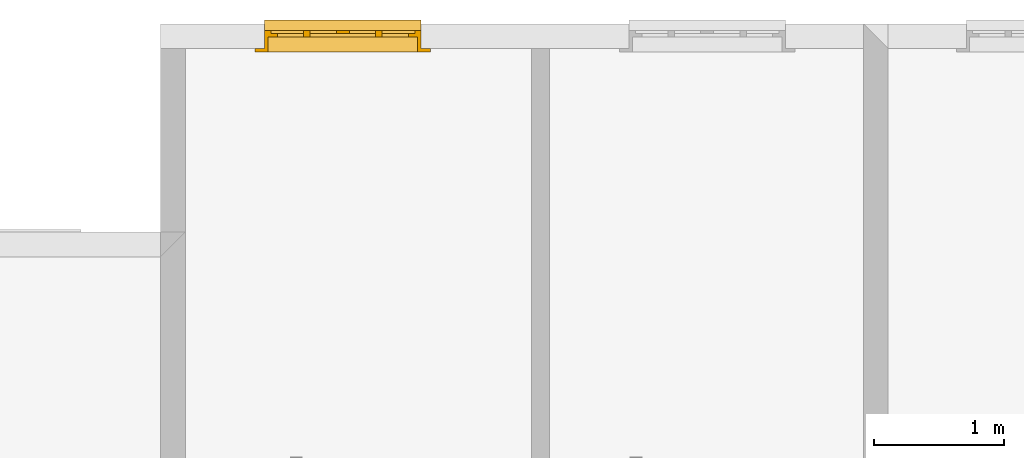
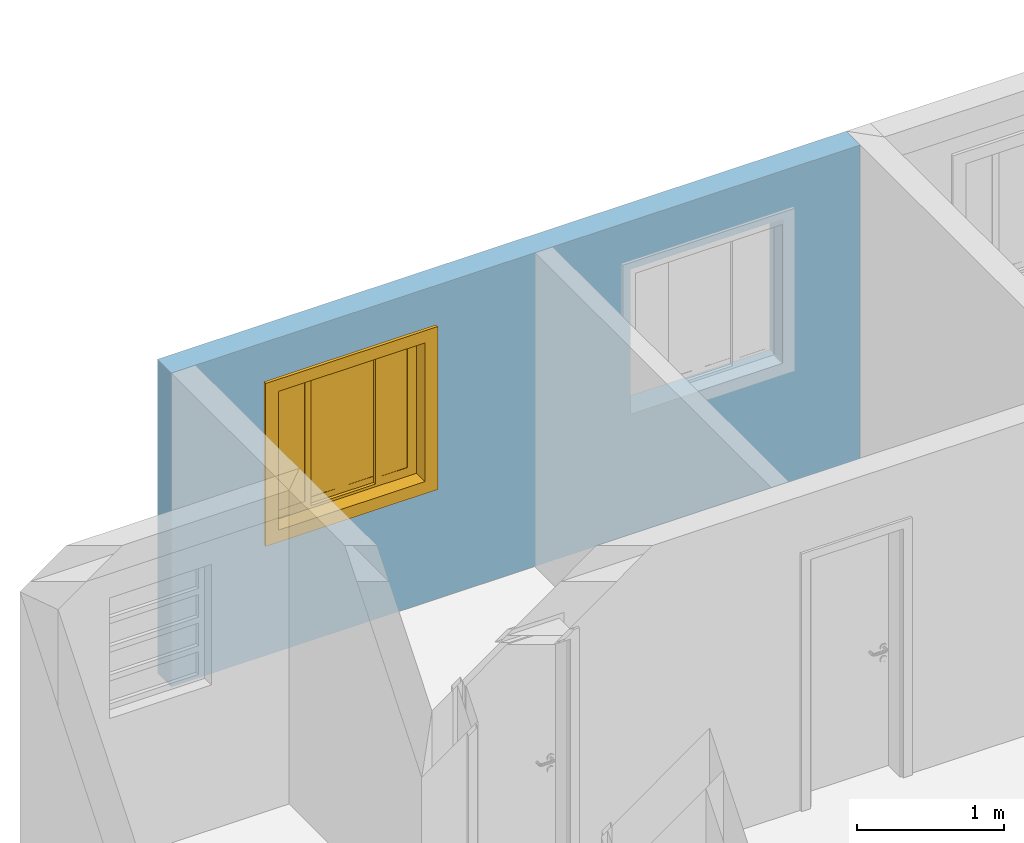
# One storey, part 38 of 47: 1 window, 2 openings, plus 1 element that does not belong to this part.
"""IFC2X3 building model written with IfcOpenShell, lengths in millimetres."""

from ifc_helpers import new_model, entity, si_unit, converted_unit, derived_unit, money_unit, direction, frame, origin_with_axes, origin_2d_with_axis, place, context, subcontext, project, spatial, polyline, rectangle, outline, extrude, open_shell, faceted_brep, surface_model, source, transform, mapped, material, layer, layer_set, layer_usage, type_object, element, fill, save


model = new_model("IFC2X3")

# Units and contexts
model_context = context("Model", 3, precision=0.01, world=origin_with_axes(), true_north=direction((0.0, 1.0)))
body_context = subcontext(model_context, "Body", "Model", "MODEL_VIEW")
ifc_project = project(units=[si_unit("LENGTHUNIT", "METRE", prefix="MILLI"), si_unit("AREAUNIT", "SQUARE_METRE"), si_unit("VOLUMEUNIT", "CUBIC_METRE"), converted_unit("PLANEANGLEUNIT", "DEGREE", entity("IfcPlaneAngleMeasure", 0.0174532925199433), si_unit("PLANEANGLEUNIT", "RADIAN"), dimensions=[0, 0, 0, 0, 0, 0, 0]), money_unit("USD"), converted_unit("TIMEUNIT", "Year", entity("IfcTimeMeasure", 31557600.0), si_unit("TIMEUNIT", "SECOND"), dimensions=[0, 0, 1, 0, 0, 0, 0]), si_unit("MASSUNIT", "GRAM", prefix="KILO"), si_unit("THERMODYNAMICTEMPERATUREUNIT", "DEGREE_CELSIUS"), si_unit("LUMINOUSINTENSITYUNIT", "LUMEN"), si_unit("ENERGYUNIT", "JOULE", prefix="MEGA"), derived_unit("THERMALCONDUCTANCEUNIT", [(si_unit("POWERUNIT", "WATT"), 1), (si_unit("LENGTHUNIT", "METRE"), -1), (si_unit("THERMODYNAMICTEMPERATUREUNIT", "KELVIN"), -1)]), derived_unit("SPECIFICHEATCAPACITYUNIT", [(si_unit("ENERGYUNIT", "JOULE"), 1), (si_unit("MASSUNIT", "GRAM", prefix="KILO"), -1), (si_unit("THERMODYNAMICTEMPERATUREUNIT", "KELVIN"), -1)]), derived_unit("MASSDENSITYUNIT", [(si_unit("MASSUNIT", "GRAM", prefix="KILO"), 1), (si_unit("VOLUMEUNIT", "CUBIC_METRE"), -1)])], contexts=[model_context])

# Site, building, storey
site_placement = place(None, origin_with_axes())
site = spatial("IfcSite", under=ifc_project, at=site_placement, Name="Local", CompositionType="ELEMENT")
building_placement = place(site_placement, origin_with_axes())
building = spatial("IfcBuilding", under=site, at=building_placement, Name="Construção", CompositionType="ELEMENT")
storey_placement = place(building_placement, origin_with_axes())
storey = spatial("IfcBuildingStorey", under=building, at=storey_placement, Name="Pavimento Tipo", CompositionType="ELEMENT", Elevation=0.0)

# Wall, openings, window
ifc_material = material(Name="Concreto - Estrutural")
ifc_layer = layer(ifc_material, 190.0, ventilated="UNKNOWN")
ifc_layer_set = layer_set([ifc_layer], Name="Concreto - Estrutural 190")
ifc_layer_usage = layer_usage(ifc_layer_set, "AXIS2", "POSITIVE", -190.0)
wall_type = type_object("IfcWallType", Name="Concreto - Estrutural 190", PredefinedType="NOTDEFINED")
wall_placement = place(storey_placement, frame((-4547.433002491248, 19186.98141771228, 0.0), z_axis=(0.0, 0.0, 1.0), x_axis=(1.0, 0.0, 0.0)))
wall = element("IfcWallStandardCase", 1, at=wall_placement, inside=storey, type_object=wall_type, material=ifc_layer_usage, Name="Apartamento 2 - Parede-004", context=body_context, shape_type="SweptSolid", body=[
    extrude(outline(polyline([(0.0, -190.0000000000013), (5399.999999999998, -190.0000000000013), (5399.999999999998, 0.0), (0.0, 0.0), (0.0, -190.0000000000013)])), origin_with_axes(), (0.0, 0.0, 1.0), 2600.0),
])
opening_1_placement = place(wall_placement, frame((4199.999999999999, 0.0, 1000.0), z_axis=(0.0, 0.0, 1.0), x_axis=(1.0, 0.0, 0.0)))
element("IfcOpeningElement", 2, at=opening_1_placement, cuts=wall, Name="Apartamento 2 - J06", context=body_context, shape_type="SweptSolid", body=[
    extrude(rectangle(XDim=1200.0, YDim=1200.0, at=origin_2d_with_axis()), frame((0.0, -50.00000000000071, 600.0000000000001), z_axis=(0.0, -1.0, 0.0), x_axis=(-1.0, 0.0, 0.0)), (0.0, 0.0, 1.0), 330.0),
    extrude(rectangle(XDim=1200.0, YDim=1200.0, at=origin_2d_with_axis()), frame((0.0, -50.00000000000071, 600.0000000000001), z_axis=(0.0, 1.0, 0.0), x_axis=(-1.0, 0.0, 0.0)), (0.0, 0.0, 1.0), 240.0),
    extrude(rectangle(XDim=1350.0, YDim=1350.0, at=origin_2d_with_axis()), frame((0.0, -190.0000000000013, 600.0000000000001), z_axis=(0.0, -1.0, 0.0), x_axis=(-1.0, 0.0, 0.0)), (0.0, 0.0, 1.0), 240.0),
])
opening_2_placement = place(wall_placement, frame((1400.0, 0.0, 1000.0), z_axis=(0.0, 0.0, 1.0), x_axis=(1.0, 0.0, 0.0)))
opening_2 = element("IfcOpeningElement", 3, at=opening_2_placement, cuts=wall, Name="Apartamento 2 - J05", context=body_context, shape_type="SweptSolid", body=[
    extrude(rectangle(XDim=1200.0, YDim=1200.0, at=origin_2d_with_axis()), frame((0.0, -50.00000000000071, 600.0000000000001), z_axis=(0.0, 1.0, 0.0), x_axis=(1.0, 0.0, 0.0)), (0.0, 0.0, -1.0), 330.0),
    extrude(rectangle(XDim=1200.0, YDim=1200.0, at=origin_2d_with_axis()), frame((0.0, -50.00000000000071, 600.0000000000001), z_axis=(0.0, -1.0, 0.0), x_axis=(1.0, 0.0, 0.0)), (0.0, 0.0, -1.0), 240.0),
    extrude(rectangle(XDim=1350.0, YDim=1350.0, at=origin_2d_with_axis()), frame((0.0, -190.0000000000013, 600.0000000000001), z_axis=(0.0, 1.0, 0.0), x_axis=(1.0, 0.0, 0.0)), (0.0, 0.0, -1.0), 240.0),
])
window_style = type_object("IfcWindowStyle", Name="Janela de Correr 4-Folhas 27", ConstructionType="NOTDEFINED", OperationType="USERDEFINED", ParameterTakesPrecedence=False, Sizeable=False)
shared_shape = source(origin_with_axes(), body_context, "Body", "SurfaceModel", [
    faceted_brep([(-600.0, 0.0, 5.0), (-600.0, 0.0, 30.0), (-600.0, 50.0, 27.37961103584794), (-600.0, 50.0, 5.000000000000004), (600.0, 0.0, 5.0), (600.0, 0.0, 30.0), (600.0, 50.0, 27.37961103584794), (600.0, 80.0, 25.8073776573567), (-600.0, 80.0, 25.8073776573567), (-600.0, 80.0, 5.000000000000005), (600.0, 80.0, 5.000000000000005), (600.0, 50.0, 5.000000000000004)], [[[0, 1, 2, 3]], [[4, 5, 1, 0]], [[1, 5, 6, 7, 8, 2]], [[3, 2, 8, 9]], [[0, 3, 9, 10, 11, 4]], [[11, 6, 5, 4]], [[10, 7, 6, 11]], [[9, 8, 7, 10]]]),
    faceted_brep([(-600.0, 0.0, 0.0), (-600.0, 0.0, 5.0), (-600.0, 50.0, 5.0), (-600.0, 50.0, 0.0), (600.0, 0.0, 0.0), (600.0, 0.0, 5.0), (600.0, 50.0, 5.0), (600.0, 50.0, 0.0)], [[[0, 1, 2, 3]], [[4, 5, 1, 0]], [[1, 5, 6, 2]], [[3, 2, 6, 7]], [[0, 3, 7, 4]], [[7, 6, 5, 4]]]),
    faceted_brep([(-600.0, -50.0, 0.0), (600.0, -50.0, 0.0), (600.0, -140.0, 0.0), (-600.0, -140.0, 0.0), (-600.0, -50.00000000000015, 1200.0), (600.0, -50.00000000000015, 1200.0), (-575.0, -50.0, 24.99999999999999), (575.0, -50.0, 24.99999999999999), (575.0, -50.00000000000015, 1175.0), (-575.0, -50.00000000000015, 1175.0), (600.0, -140.0000000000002, 1200.0), (-600.0, -140.0000000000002, 1200.0), (-575.0, -140.0, 24.99999999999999), (-575.0, -140.0000000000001, 1175.0), (575.0, -140.0000000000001, 1175.0), (575.0, -140.0, 24.99999999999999)], [[[0, 1, 2, 3]], [[0, 4, 5, 1], [6, 7, 8, 9]], [[1, 5, 10, 2]], [[3, 2, 10, 11], [12, 13, 14, 15]], [[4, 0, 3, 11]], [[5, 4, 11, 10]], [[7, 6, 12, 15]], [[8, 7, 15, 14]], [[9, 8, 14, 13]], [[6, 9, 13, 12]]]),
    faceted_brep([(-674.9999999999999, -165.0, -75.00000000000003), (-674.9999999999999, -140.0, -75.00000000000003), (-575.0, -140.0, 24.99999999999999), (-575.0, -165.0, 24.99999999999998), (-674.9999999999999, -165.0000000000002, 1275.0), (-674.9999999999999, -140.0000000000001, 1275.0), (-575.0, -140.0000000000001, 1175.0), (-575.0, -165.0000000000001, 1175.0)], [[[0, 1, 2, 3]], [[4, 5, 1, 0]], [[1, 5, 6, 2]], [[3, 2, 6, 7]], [[0, 3, 7, 4]], [[7, 6, 5, 4]]]),
    faceted_brep([(674.9999999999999, -165.0000000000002, 1275.0), (674.9999999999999, -140.0000000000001, 1275.0), (575.0, -140.0000000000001, 1175.0), (575.0, -165.0000000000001, 1175.0), (674.9999999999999, -165.0, -75.00000000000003), (674.9999999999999, -140.0, -75.00000000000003), (575.0, -140.0, 24.99999999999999), (575.0, -165.0, 24.99999999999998)], [[[0, 1, 2, 3]], [[4, 5, 1, 0]], [[1, 5, 6, 2]], [[3, 2, 6, 7]], [[0, 3, 7, 4]], [[7, 6, 5, 4]]]),
    faceted_brep([(674.9999999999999, -165.0, -75.00000000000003), (674.9999999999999, -140.0, -75.00000000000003), (575.0, -140.0, 24.99999999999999), (575.0, -165.0, 24.99999999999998), (-674.9999999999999, -165.0, -75.00000000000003), (-674.9999999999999, -140.0, -75.00000000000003), (-575.0, -140.0, 24.99999999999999), (-575.0, -165.0, 24.99999999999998)], [[[0, 1, 2, 3]], [[4, 5, 1, 0]], [[1, 5, 6, 2]], [[3, 2, 6, 7]], [[0, 3, 7, 4]], [[7, 6, 5, 4]]]),
    faceted_brep([(-674.9999999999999, -165.0000000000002, 1275.0), (-674.9999999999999, -140.0000000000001, 1275.0), (-575.0, -140.0000000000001, 1175.0), (-575.0, -165.0000000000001, 1175.0), (674.9999999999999, -165.0000000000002, 1275.0), (674.9999999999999, -140.0000000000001, 1275.0), (575.0, -140.0000000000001, 1175.0), (575.0, -165.0000000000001, 1175.0)], [[[0, 1, 2, 3]], [[4, 5, 1, 0]], [[1, 5, 6, 2]], [[3, 2, 6, 7]], [[0, 3, 7, 4]], [[7, 6, 5, 4]]]),
    faceted_brep([(-552.9999999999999, -50.00000000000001, 47.0), (-552.9999999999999, 0.0, 47.00000000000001), (-552.9999999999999, 0.0, 1153.0), (-552.9999999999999, -50.00000000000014, 1153.0), (-600.0, -50.00000000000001, 47.0), (-600.0, 0.0, 47.00000000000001), (-600.0, 0.0, 1153.0), (-600.0, -50.00000000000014, 1153.0)], [[[0, 1, 2, 3]], [[4, 5, 1, 0]], [[1, 5, 6, 2]], [[3, 2, 6, 7]], [[0, 3, 7, 4]], [[7, 6, 5, 4]]]),
    faceted_brep([(600.0, -50.00000000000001, 47.0), (600.0, 0.0, 47.00000000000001), (600.0, 0.0, 1153.0), (600.0, -50.00000000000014, 1153.0), (552.9999999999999, -50.00000000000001, 47.0), (552.9999999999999, 0.0, 47.00000000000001), (552.9999999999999, 0.0, 1153.0), (552.9999999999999, -50.00000000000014, 1153.0)], [[[0, 1, 2, 3]], [[4, 5, 1, 0]], [[1, 5, 6, 2]], [[3, 2, 6, 7]], [[0, 3, 7, 4]], [[7, 6, 5, 4]]]),
    faceted_brep([(600.0, -50.00000000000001, 47.0), (600.0, 0.0, 47.00000000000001), (552.9999999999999, 0.0, 47.00000000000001), (552.9999999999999, -50.00000000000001, 47.0), (600.0, -50.0, 0.0), (600.0, 0.0, 0.0), (-600.0, 0.0, 0.0), (-600.0, 0.0, 47.00000000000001), (-552.9999999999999, 0.0, 47.00000000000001), (-552.9999999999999, -50.00000000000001, 47.0), (-600.0, -50.00000000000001, 47.0), (-600.0, -50.0, 0.0)], [[[0, 1, 2, 3]], [[4, 5, 1, 0]], [[1, 5, 6, 7, 8, 2]], [[3, 2, 8, 9]], [[0, 3, 9, 10, 11, 4]], [[11, 6, 5, 4]], [[10, 7, 6, 11]], [[9, 8, 7, 10]]]),
    faceted_brep([(600.0, -50.00000000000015, 1200.0), (600.0, 0.0, 1200.0), (-600.0, 0.0, 1200.0), (-600.0, -50.00000000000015, 1200.0), (600.0, -50.00000000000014, 1153.0), (600.0, 0.0, 1153.0), (552.9999999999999, 0.0, 1153.0), (276.5, 0.0, 1153.0), (0.0, 0.0, 1153.0), (-276.4999999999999, 0.0, 1153.0), (-552.9999999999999, 0.0, 1153.0), (-600.0, 0.0, 1153.0), (-600.0, -50.00000000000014, 1153.0), (-552.9999999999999, -50.00000000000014, 1153.0), (-276.4999999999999, -50.00000000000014, 1153.0), (0.0, -50.00000000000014, 1153.0), (276.5, -50.00000000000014, 1153.0), (552.9999999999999, -50.00000000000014, 1153.0)], [[[0, 1, 2, 3]], [[4, 5, 1, 0]], [[1, 5, 6, 7, 8, 9, 10, 11, 2]], [[3, 2, 11, 12]], [[0, 3, 12, 13, 14, 15, 16, 17, 4]], [[17, 6, 5, 4]], [[16, 7, 6, 17]], [[15, 8, 7, 16]], [[14, 9, 8, 15]], [[13, 10, 9, 14]], [[12, 11, 10, 13]]]),
    faceted_brep([(-502.9999999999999, -50.00000000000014, 1103.0), (-502.9999999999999, -25.00000000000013, 1103.0), (-552.9999999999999, -25.00000000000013, 1103.0), (-552.9999999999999, -50.00000000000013, 1103.0), (-502.9999999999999, -50.00000000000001, 97.0), (-502.9999999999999, -25.00000000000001, 97.0), (-552.9999999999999, -25.0, 97.0), (-552.9999999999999, -50.00000000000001, 97.0)], [[[0, 1, 2, 3]], [[4, 5, 1, 0]], [[1, 5, 6, 2]], [[3, 2, 6, 7]], [[0, 3, 7, 4]], [[7, 6, 5, 4]]]),
    faceted_brep([(-301.4999999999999, -50.00000000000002, 97.0), (-301.4999999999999, -25.00000000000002, 97.0), (-251.4999999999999, -25.00000000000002, 97.0), (-251.4999999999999, -50.00000000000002, 97.0), (-301.4999999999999, -50.00000000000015, 1103.0), (-301.4999999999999, -25.00000000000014, 1103.0), (-251.4999999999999, -25.00000000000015, 1103.0), (-251.4999999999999, -50.00000000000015, 1103.0)], [[[0, 1, 2, 3]], [[4, 5, 1, 0]], [[1, 5, 6, 2]], [[3, 2, 6, 7]], [[0, 3, 7, 4]], [[7, 6, 5, 4]]]),
    faceted_brep([(-251.4999999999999, -50.00000000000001, 47.0), (-251.4999999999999, -25.00000000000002, 47.0), (-251.4999999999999, -25.00000000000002, 97.0), (-251.4999999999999, -50.00000000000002, 97.0), (-552.9999999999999, -50.0, 47.0), (-552.9999999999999, -25.0, 47.0), (-552.9999999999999, -25.0, 97.0), (-502.9999999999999, -25.00000000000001, 97.0), (-301.4999999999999, -25.00000000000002, 97.0), (-301.4999999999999, -50.00000000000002, 97.0), (-502.9999999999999, -50.00000000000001, 97.0), (-552.9999999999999, -50.00000000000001, 97.0)], [[[0, 1, 2, 3]], [[4, 5, 1, 0]], [[1, 5, 6, 7, 8, 2]], [[3, 2, 8, 9]], [[0, 3, 9, 10, 11, 4]], [[11, 6, 5, 4]], [[10, 7, 6, 11]], [[9, 8, 7, 10]]]),
    faceted_brep([(-552.9999999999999, -50.00000000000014, 1153.0), (-552.9999999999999, -25.00000000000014, 1153.0), (-552.9999999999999, -25.00000000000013, 1103.0), (-552.9999999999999, -50.00000000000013, 1103.0), (-251.4999999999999, -50.00000000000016, 1153.0), (-251.4999999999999, -25.00000000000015, 1153.0), (-251.4999999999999, -25.00000000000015, 1103.0), (-301.4999999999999, -25.00000000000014, 1103.0), (-502.9999999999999, -25.00000000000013, 1103.0), (-502.9999999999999, -50.00000000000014, 1103.0), (-301.4999999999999, -50.00000000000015, 1103.0), (-251.4999999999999, -50.00000000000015, 1103.0)], [[[0, 1, 2, 3]], [[4, 5, 1, 0]], [[1, 5, 6, 7, 8, 2]], [[3, 2, 8, 9]], [[0, 3, 9, 10, 11, 4]], [[11, 6, 5, 4]], [[10, 7, 6, 11]], [[9, 8, 7, 10]]]),
    surface_model("IfcShellBasedSurfaceModel", [(-502.9999999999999, -47.50000000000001, 97.0), (-301.4999999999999, -47.50000000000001, 97.0), (-301.4999999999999, -47.50000000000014, 1103.0), (-502.9999999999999, -47.50000000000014, 1103.0)], [open_shell([[[0, 1, 2, 3]]])]),
    surface_model("IfcShellBasedSurfaceModel", [(-502.9999999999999, -27.50000000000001, 97.0), (-502.9999999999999, -27.50000000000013, 1103.0), (-301.4999999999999, -27.50000000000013, 1103.0), (-301.4999999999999, -27.50000000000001, 97.0)], [open_shell([[[0, 1, 2, 3]]])]),
    faceted_brep([(-251.4999999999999, -25.00000000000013, 1103.0), (-251.4999999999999, 0.0, 1103.0), (-301.4999999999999, 0.0, 1103.0), (-301.4999999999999, -25.00000000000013, 1103.0), (-251.4999999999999, -25.00000000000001, 97.0), (-251.4999999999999, 0.0, 97.0), (-301.4999999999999, 0.0, 97.0), (-301.4999999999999, -25.0, 97.0)], [[[0, 1, 2, 3]], [[4, 5, 1, 0]], [[1, 5, 6, 2]], [[3, 2, 6, 7]], [[0, 3, 7, 4]], [[7, 6, 5, 4]]]),
    faceted_brep([(-49.99999999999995, -25.00000000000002, 97.0), (-49.99999999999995, 0.0, 97.0), (0.0, 0.0, 97.0), (0.0, -25.00000000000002, 97.0), (-49.99999999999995, -25.00000000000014, 1103.0), (-49.99999999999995, 0.0, 1103.0), (0.0, 0.0, 1103.0), (0.0, -25.00000000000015, 1103.0)], [[[0, 1, 2, 3]], [[4, 5, 1, 0]], [[1, 5, 6, 2]], [[3, 2, 6, 7]], [[0, 3, 7, 4]], [[7, 6, 5, 4]]]),
    faceted_brep([(0.0, -25.00000000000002, 47.0), (0.0, 0.0, 47.0), (0.0, 0.0, 97.0), (0.0, -25.00000000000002, 97.0), (-301.4999999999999, -25.0, 47.0), (-301.4999999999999, 0.0, 47.0), (-301.4999999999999, 0.0, 97.0), (-251.4999999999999, 0.0, 97.0), (-49.99999999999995, 0.0, 97.0), (-49.99999999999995, -25.00000000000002, 97.0), (-251.4999999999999, -25.00000000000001, 97.0), (-301.4999999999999, -25.0, 97.0)], [[[0, 1, 2, 3]], [[4, 5, 1, 0]], [[1, 5, 6, 7, 8, 2]], [[3, 2, 8, 9]], [[0, 3, 9, 10, 11, 4]], [[11, 6, 5, 4]], [[10, 7, 6, 11]], [[9, 8, 7, 10]]]),
    faceted_brep([(-301.4999999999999, -25.00000000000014, 1153.0), (-301.4999999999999, 0.0, 1153.0), (-301.4999999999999, 0.0, 1103.0), (-301.4999999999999, -25.00000000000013, 1103.0), (0.0, -25.00000000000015, 1153.0), (0.0, 0.0, 1153.0), (0.0, 0.0, 1103.0), (-49.99999999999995, 0.0, 1103.0), (-251.4999999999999, 0.0, 1103.0), (-251.4999999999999, -25.00000000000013, 1103.0), (-49.99999999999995, -25.00000000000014, 1103.0), (0.0, -25.00000000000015, 1103.0)], [[[0, 1, 2, 3]], [[4, 5, 1, 0]], [[1, 5, 6, 7, 8, 2]], [[3, 2, 8, 9]], [[0, 3, 9, 10, 11, 4]], [[11, 6, 5, 4]], [[10, 7, 6, 11]], [[9, 8, 7, 10]]]),
    surface_model("IfcShellBasedSurfaceModel", [(-251.4999999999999, -22.50000000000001, 97.0), (-49.99999999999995, -22.50000000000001, 97.0), (-49.99999999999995, -22.50000000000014, 1103.0), (-251.4999999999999, -22.50000000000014, 1103.0)], [open_shell([[[0, 1, 2, 3]]])]),
    surface_model("IfcShellBasedSurfaceModel", [(-251.4999999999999, -2.500000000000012, 97.0), (-251.4999999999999, -2.500000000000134, 1103.0), (-49.99999999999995, -2.500000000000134, 1103.0), (-49.99999999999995, -2.500000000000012, 97.0)], [open_shell([[[0, 1, 2, 3]]])]),
    faceted_brep([(50.00000000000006, -25.00000000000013, 1103.0), (50.00000000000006, 0.0, 1103.0), (0.0, 0.0, 1103.0), (0.0, -25.00000000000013, 1103.0), (50.00000000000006, -25.00000000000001, 97.0), (50.00000000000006, 0.0, 97.0), (0.0, 0.0, 97.0), (0.0, -25.0, 97.0)], [[[0, 1, 2, 3]], [[4, 5, 1, 0]], [[1, 5, 6, 2]], [[3, 2, 6, 7]], [[0, 3, 7, 4]], [[7, 6, 5, 4]]]),
    faceted_brep([(251.5000000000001, -25.00000000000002, 97.0), (251.5000000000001, 0.0, 97.0), (301.5000000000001, 0.0, 97.0), (301.5000000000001, -25.00000000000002, 97.0), (251.5000000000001, -25.00000000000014, 1103.0), (251.5000000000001, 0.0, 1103.0), (301.5000000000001, 0.0, 1103.0), (301.5000000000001, -25.00000000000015, 1103.0)], [[[0, 1, 2, 3]], [[4, 5, 1, 0]], [[1, 5, 6, 2]], [[3, 2, 6, 7]], [[0, 3, 7, 4]], [[7, 6, 5, 4]]]),
    faceted_brep([(301.5000000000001, -25.00000000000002, 47.0), (301.5000000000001, 0.0, 47.0), (301.5000000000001, 0.0, 97.0), (301.5000000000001, -25.00000000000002, 97.0), (0.0, -25.0, 47.0), (0.0, 0.0, 47.0), (0.0, 0.0, 97.0), (50.00000000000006, 0.0, 97.0), (251.5000000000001, 0.0, 97.0), (251.5000000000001, -25.00000000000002, 97.0), (50.00000000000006, -25.00000000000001, 97.0), (0.0, -25.0, 97.0)], [[[0, 1, 2, 3]], [[4, 5, 1, 0]], [[1, 5, 6, 7, 8, 2]], [[3, 2, 8, 9]], [[0, 3, 9, 10, 11, 4]], [[11, 6, 5, 4]], [[10, 7, 6, 11]], [[9, 8, 7, 10]]]),
    faceted_brep([(0.0, -25.00000000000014, 1153.0), (0.0, 0.0, 1153.0), (0.0, 0.0, 1103.0), (0.0, -25.00000000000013, 1103.0), (301.5000000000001, -25.00000000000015, 1153.0), (301.5000000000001, 0.0, 1153.0), (301.5000000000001, 0.0, 1103.0), (251.5000000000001, 0.0, 1103.0), (50.00000000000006, 0.0, 1103.0), (50.00000000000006, -25.00000000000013, 1103.0), (251.5000000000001, -25.00000000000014, 1103.0), (301.5000000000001, -25.00000000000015, 1103.0)], [[[0, 1, 2, 3]], [[4, 5, 1, 0]], [[1, 5, 6, 7, 8, 2]], [[3, 2, 8, 9]], [[0, 3, 9, 10, 11, 4]], [[11, 6, 5, 4]], [[10, 7, 6, 11]], [[9, 8, 7, 10]]]),
    surface_model("IfcShellBasedSurfaceModel", [(50.00000000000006, -22.50000000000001, 97.0), (251.5000000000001, -22.50000000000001, 97.0), (251.5000000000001, -22.50000000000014, 1103.0), (50.00000000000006, -22.50000000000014, 1103.0)], [open_shell([[[0, 1, 2, 3]]])]),
    surface_model("IfcShellBasedSurfaceModel", [(50.00000000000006, -2.500000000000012, 97.0), (50.00000000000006, -2.500000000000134, 1103.0), (251.5000000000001, -2.500000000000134, 1103.0), (251.5000000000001, -2.500000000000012, 97.0)], [open_shell([[[0, 1, 2, 3]]])]),
    faceted_brep([(301.5000000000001, -50.00000000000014, 1103.0), (301.5000000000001, -25.00000000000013, 1103.0), (251.5000000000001, -25.00000000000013, 1103.0), (251.5000000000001, -50.00000000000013, 1103.0), (301.5000000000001, -50.00000000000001, 97.0), (301.5000000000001, -25.00000000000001, 97.0), (251.5000000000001, -25.0, 97.0), (251.5000000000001, -50.00000000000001, 97.0)], [[[0, 1, 2, 3]], [[4, 5, 1, 0]], [[1, 5, 6, 2]], [[3, 2, 6, 7]], [[0, 3, 7, 4]], [[7, 6, 5, 4]]]),
    faceted_brep([(503.0, -50.00000000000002, 97.0), (503.0, -25.00000000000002, 97.0), (553.0, -25.00000000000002, 97.0), (553.0, -50.00000000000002, 97.0), (503.0, -50.00000000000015, 1103.0), (503.0, -25.00000000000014, 1103.0), (553.0, -25.00000000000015, 1103.0), (553.0, -50.00000000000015, 1103.0)], [[[0, 1, 2, 3]], [[4, 5, 1, 0]], [[1, 5, 6, 2]], [[3, 2, 6, 7]], [[0, 3, 7, 4]], [[7, 6, 5, 4]]]),
    faceted_brep([(553.0, -50.00000000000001, 47.0), (553.0, -25.00000000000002, 47.0), (553.0, -25.00000000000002, 97.0), (553.0, -50.00000000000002, 97.0), (251.5000000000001, -50.0, 47.0), (251.5000000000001, -25.0, 47.0), (251.5000000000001, -25.0, 97.0), (301.5000000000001, -25.00000000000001, 97.0), (503.0, -25.00000000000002, 97.0), (503.0, -50.00000000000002, 97.0), (301.5000000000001, -50.00000000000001, 97.0), (251.5000000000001, -50.00000000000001, 97.0)], [[[0, 1, 2, 3]], [[4, 5, 1, 0]], [[1, 5, 6, 7, 8, 2]], [[3, 2, 8, 9]], [[0, 3, 9, 10, 11, 4]], [[11, 6, 5, 4]], [[10, 7, 6, 11]], [[9, 8, 7, 10]]]),
    faceted_brep([(251.5000000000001, -50.00000000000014, 1153.0), (251.5000000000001, -25.00000000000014, 1153.0), (251.5000000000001, -25.00000000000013, 1103.0), (251.5000000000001, -50.00000000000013, 1103.0), (553.0, -50.00000000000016, 1153.0), (553.0, -25.00000000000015, 1153.0), (553.0, -25.00000000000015, 1103.0), (503.0, -25.00000000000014, 1103.0), (301.5000000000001, -25.00000000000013, 1103.0), (301.5000000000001, -50.00000000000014, 1103.0), (503.0, -50.00000000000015, 1103.0), (553.0, -50.00000000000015, 1103.0)], [[[0, 1, 2, 3]], [[4, 5, 1, 0]], [[1, 5, 6, 7, 8, 2]], [[3, 2, 8, 9]], [[0, 3, 9, 10, 11, 4]], [[11, 6, 5, 4]], [[10, 7, 6, 11]], [[9, 8, 7, 10]]]),
    surface_model("IfcShellBasedSurfaceModel", [(301.5, -47.50000000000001, 97.0), (503.0, -47.50000000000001, 97.0), (503.0, -47.50000000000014, 1103.0), (301.5, -47.50000000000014, 1103.0)], [open_shell([[[0, 1, 2, 3]]])]),
    surface_model("IfcShellBasedSurfaceModel", [(301.5, -27.50000000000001, 97.0), (301.5, -27.50000000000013, 1103.0), (503.0, -27.50000000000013, 1103.0), (503.0, -27.50000000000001, 97.0)], [open_shell([[[0, 1, 2, 3]]])]),
])
window_placement = place(opening_2_placement, frame((-600.0000000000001, 0.0, 0.0), z_axis=(0.0, 0.0, 1.0), x_axis=(1.0, 0.0, 0.0)))
window = element("IfcWindow", 4, at=window_placement, inside=storey, type_object=window_style, Name="Apartamento 2 - J05", ObjectType="WINDOW", OverallHeight=1200.0, OverallWidth=1200.0, context=body_context, shape_type="MappedRepresentation", body=[
    mapped(shared_shape, transform((600.0000000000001, -50.00000000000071, 0.0))),
])
fill(opening_2, window)

save(model, "model.ifc")
